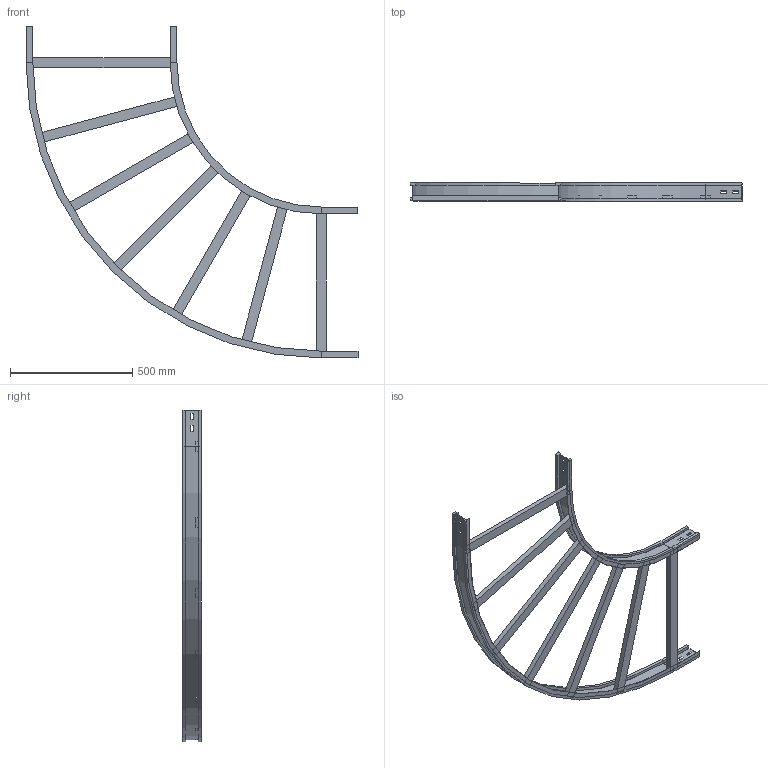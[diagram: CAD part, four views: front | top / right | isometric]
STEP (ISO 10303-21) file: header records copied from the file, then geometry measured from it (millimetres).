
FILE_DESCRIPTION (( 'STEP AP214' ), '1' );
FILE_NAME ('10S6C600.step', '2025-02-21T16:11:59', ( '' ), ( '' ), 'SwSTEP 2.0', 'SolidWorks 2023', '' );
FILE_SCHEMA (( 'AUTOMOTIVE_DESIGN' ));
Length unit declared in the file: millimetre
Products named in the file (4): LONGH.INTERNO 90°_H75_R600; LONGH.ESTERNO 90°_H75_R600+600; 10S6C600; TRAVERSINO_600
Assembly tree (9 placements, depth 2):
  10S6C600
    LONGH.INTERNO 90°_H75_R600
    LONGH.ESTERNO 90°_H75_R600+600
    TRAVERSINO_600  x7
Bounding box: 1359 x 75 x 1359 mm (x, y, z)
Volume: 5071157.8 mm3; surface area: 1362762 mm2
Topology: 9 solids, 9 shells, 150 faces, 348 edges, 216 vertices
Faces by surface type: plane 138, cylinder 12
Entity records: 3421 total; most frequent: CARTESIAN_POINT 570, DIRECTION 552, ORIENTED_EDGE 552, EDGE_CURVE 276, LINE 252, VECTOR 252, VERTEX_POINT 168, AXIS2_PLACEMENT_3D 150
